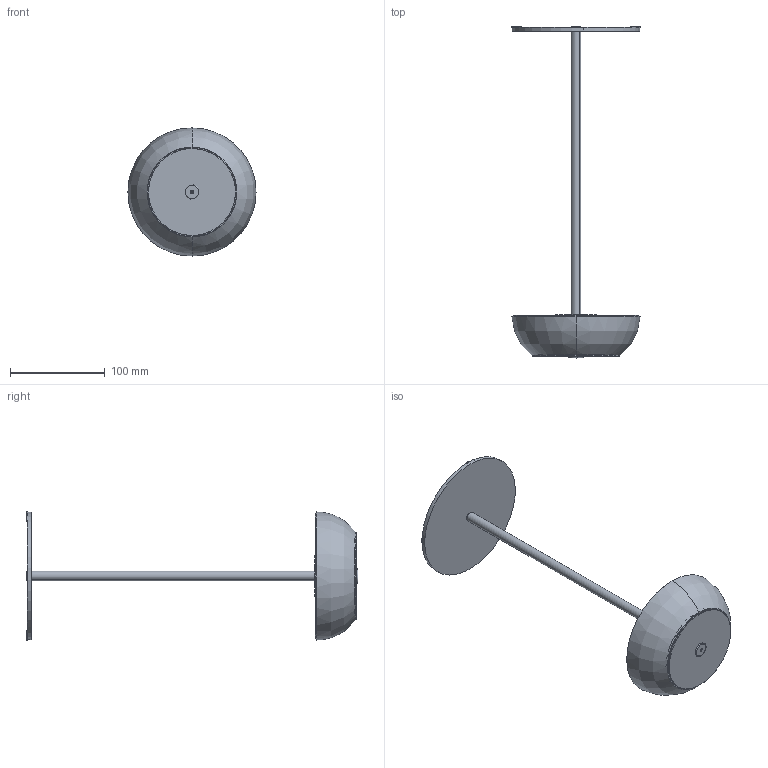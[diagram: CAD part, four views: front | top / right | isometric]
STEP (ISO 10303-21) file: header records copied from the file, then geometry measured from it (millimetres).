
FILE_DESCRIPTION (( 'STEP AP203' ), '1' );
FILE_NAME ('LTFLOAT 3D.STEP', '2020-06-15T07:27:48', ( '' ), ( '' ), 'SwSTEP 2.0', 'SolidWorks 2019', '' );
FILE_SCHEMA (( 'CONFIG_CONTROL_DESIGN' ));
Length unit declared in the file: millimetre
Products named in the file (12): AXO077-12_Base_Tavolo; Adesivo Funnel^LTFLOAT 3D; Adesivo Touch^LTFLOAT 3D; AXO077-09_Asta_Tavolo; LTFLOAT 3D; Adesivo PMMA^LTFLOAT 3D; AXO077-02 - Funnel; piedino_silicone_Ø10; AXO077-04 - Diffuser; URBAN-PL1-02-V1; AXO077-00 - PL WRAP-3; AXO077-01 - TouchSensor
Assembly tree (14 placements, depth 2):
  LTFLOAT 3D
    URBAN-PL1-02-V1
    AXO077-00 - PL WRAP-3
    AXO077-01 - TouchSensor
    AXO077-02 - Funnel
    AXO077-04 - Diffuser
    AXO077-09_Asta_Tavolo
    AXO077-12_Base_Tavolo
    Adesivo Touch^LTFLOAT 3D
    Adesivo Funnel^LTFLOAT 3D
    Adesivo PMMA^LTFLOAT 3D
    piedino_silicone_Ø10  x4
Bounding box: 135 x 349.7 x 135 mm (x, y, z)
Volume: 207233.6 mm3; surface area: 138511.8 mm2
Topology: 14 solids, 14 shells, 248 faces, 557 edges, 355 vertices
Faces by surface type: cylinder 135, plane 42, cone 38, torus 16, bspline 9, sphere 8
Entity records: 12343 total; most frequent: CARTESIAN_POINT 5886, DIRECTION 1114, ORIENTED_EDGE 1054, EDGE_CURVE 527, AXIS2_PLACEMENT_3D 475, VERTEX_POINT 334, EDGE_LOOP 277, CIRCLE 234
